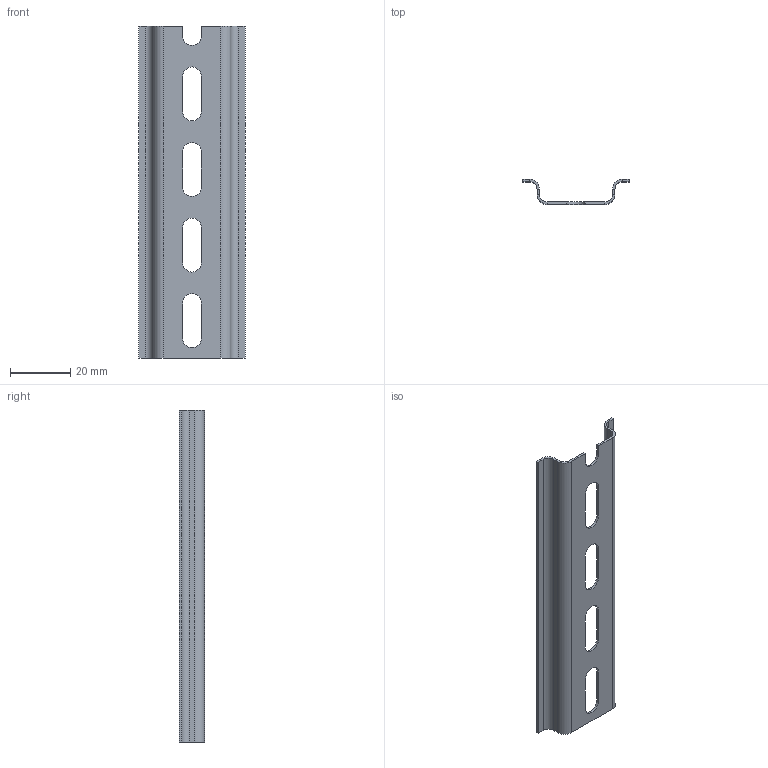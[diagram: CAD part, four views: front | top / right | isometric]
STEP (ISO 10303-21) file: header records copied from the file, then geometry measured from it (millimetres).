
FILE_DESCRIPTION (( 'STEP AP214' ), '1' );
FILE_NAME ('DIN-ðåéêà 110ìì õ 0,8 ìì.STEP', '2025-10-22T12:50:39', ( '' ), ( '' ), 'SwSTEP 2.0', 'SolidWorks 2018', '' );
FILE_SCHEMA (( 'AUTOMOTIVE_DESIGN' ));
Length unit declared in the file: millimetre
Products named in the file (1): DIN-ðåéêà 110ìì õ 0,8 ìì
Bounding box: 35.2 x 8.3 x 110 mm (x, y, z)
Volume: 3624.9 mm3; surface area: 9455.8 mm2
Topology: 1 solids, 1 shells, 62 faces, 148 edges, 88 vertices
Faces by surface type: plane 41, cylinder 21
Entity records: 1808 total; most frequent: DIRECTION 316, CARTESIAN_POINT 299, ORIENTED_EDGE 296, EDGE_CURVE 148, VECTOR 106, LINE 106, AXIS2_PLACEMENT_3D 105, VERTEX_POINT 88
